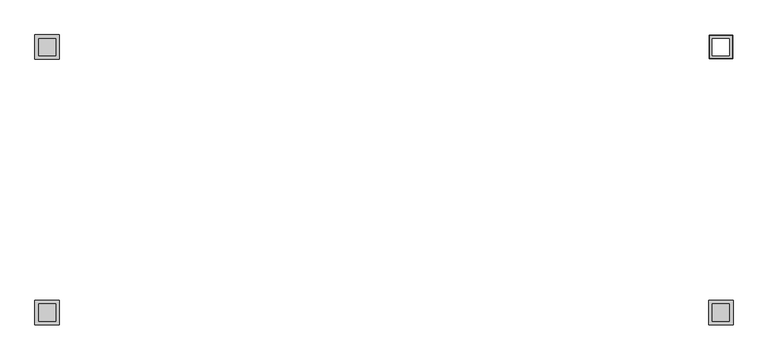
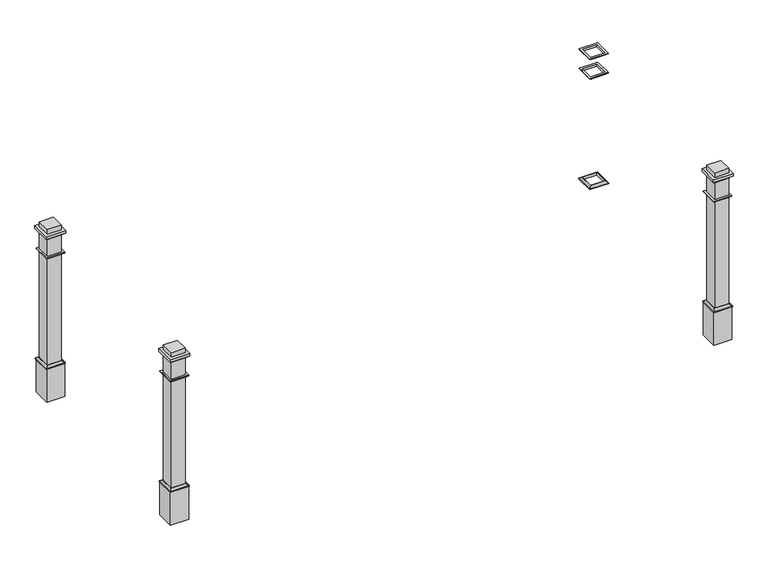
"""IFC4 building model written with IfcOpenShell, lengths in millimetres: railing geometry, Deco Type."""

from ifc_helpers import new_model, si_unit, frame, origin, place, context, project, spatial, polyline, ellipse_curve, outline, extrude, faceted_brep, source, transform, mapped, element, save
from ifc_brep_helpers import plane_surface, revolved_surface, advanced_brep


def railing_978d7468(model_context):
    return source(origin(), model_context, "Body", "SolidModel", [
        advanced_brep(
        [(-6672.1906648, 13388.0931951, 6197.6), (-6551.5406648, 13388.0931951, 6197.6), (-6551.5406648, 13388.0931951, 6219.825), (-6672.1906648, 13388.0931951, 6219.825), (-6694.4156648, 13410.3181951, 6203.95), (-6529.3156648, 13410.3181951, 6203.95), (-6529.3156648, 13410.3181951, 6197.6), (-6694.4156648, 13410.3181951, 6197.6), (-6678.5406648, 13394.4431951, 6219.825), (-6545.1906648, 13394.4431951, 6219.825), (-6551.5406648, 13267.4431951, 6197.6), (-6551.5406648, 13267.4431951, 6219.825), (-6529.3156648, 13245.2181951, 6203.95), (-6529.3156648, 13245.2181951, 6197.6), (-6545.1906648, 13261.0931951, 6219.825), (-6672.1906648, 13267.4431951, 6197.6), (-6672.1906648, 13267.4431951, 6219.825), (-6694.4156648, 13245.2181951, 6203.95), (-6694.4156648, 13245.2181951, 6197.6), (-6678.5406648, 13261.0931951, 6219.825)],
        [
            (0, 1),
            (1, 2),
            (2, 3),
            (3, 0),
            (4, 5),
            (5, 6),
            (6, 7),
            (7, 4),
            (8, 9),
            (9, 5, ellipse_curve(frame((-6529.3156648, 13410.3181951, 6219.825), z_axis=(0.7071067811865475, -0.7071067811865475, 0.0), x_axis=(0.7071067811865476, 0.7071067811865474, 0.0)), 22.4506403, 15.875)),
            (4, 8, ellipse_curve(frame((-6694.4156648, 13410.3181951, 6219.825), z_axis=(-0.7071067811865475, -0.7071067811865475, 0.0), x_axis=(0.7071067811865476, -0.7071067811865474, 0.0)), 22.4506403, 15.875)),
            (1, 10),
            (10, 11),
            (11, 2),
            (5, 12),
            (12, 13),
            (13, 6),
            (9, 14),
            (14, 12, ellipse_curve(frame((-6529.3156648, 13245.2181951, 6219.825), z_axis=(-0.7071067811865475, -0.7071067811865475, 0.0), x_axis=(0.7071067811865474, -0.7071067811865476, 0.0)), 22.4506403, 15.875)),
            (10, 15),
            (15, 16),
            (16, 11),
            (12, 17),
            (17, 18),
            (18, 13),
            (14, 19),
            (19, 17, ellipse_curve(frame((-6694.4156648, 13245.2181951, 6219.825), z_axis=(-0.7071067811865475, 0.7071067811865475, 0.0), x_axis=(-0.7071067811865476, -0.7071067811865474, 0.0)), 22.4506403, 15.875)),
            (15, 0),
            (3, 16),
            (18, 7),
            (17, 4),
            (19, 8),
        ],
        [
            plane_surface(frame((-6672.1906648, 13388.0931951, 6219.825), z_axis=(0.0, -1.0, 0.0), x_axis=(1.0, 0.0, 0.0))),
            plane_surface(frame((-6694.4156648, 13410.3181951, 6197.6), z_axis=(0.0, 1.0, 0.0), x_axis=(1.0, 0.0, 0.0))),
            revolved_surface(polyline([(-6513.44066480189, 13394.4431951, 6219.825), (-6710.29066479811, 13394.4431951, 6219.825)]), (-6672.1906648, 13410.3181951, 6219.825), (1.0, 0.0, 0.0)),
            plane_surface(frame((-6551.5406648, 13388.0931951, 6219.825), z_axis=(-1.0, 0.0, 0.0), x_axis=(0.0, -1.0, 0.0))),
            plane_surface(frame((-6529.3156648, 13410.3181951, 6197.6), z_axis=(1.0, 0.0, 0.0), x_axis=(0.0, -1.0, 0.0))),
            revolved_surface(polyline([(-6545.1906648, 13229.34319510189, 6219.825), (-6545.1906648, 13426.19319509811, 6219.825)]), (-6529.3156648, 13388.0931951, 6219.825), (0.0, -1.0, 0.0)),
            plane_surface(frame((-6551.5406648, 13267.4431951, 6219.825), z_axis=(0.0, 1.0, 0.0), x_axis=(-1.0, 0.0, 0.0))),
            plane_surface(frame((-6529.3156648, 13245.2181951, 6197.6), z_axis=(0.0, -1.0, 0.0), x_axis=(-1.0, 0.0, 0.0))),
            revolved_surface(polyline([(-6710.29066479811, 13261.0931951, 6219.825), (-6513.44066480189, 13261.0931951, 6219.825)]), (-6551.5406648, 13245.2181951, 6219.825), (-1.0, 0.0, 0.0)),
            plane_surface(frame((-6672.1906648, 13267.4431951, 6219.825), z_axis=(1.0, 0.0, 0.0), x_axis=(0.0, 1.0, 0.0))),
            plane_surface(frame((-6672.1906648, 13267.4431951, 6197.6), z_axis=(0.0, 0.0, -1.0), x_axis=(0.0, 1.0, 0.0))),
            plane_surface(frame((-6694.4156648, 13245.2181951, 6197.6), z_axis=(-1.0, 0.0, 0.0), x_axis=(0.0, 1.0, 0.0))),
            revolved_surface(polyline([(-6678.5406648, 13426.19319509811, 6219.825), (-6678.5406648, 13229.34319510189, 6219.825)]), (-6694.4156648, 13267.4431951, 6219.825), (0.0, 1.0, 0.0)),
            plane_surface(frame((-6678.5406648, 13261.0931951, 6219.825), z_axis=(0.0, 0.0, 1.0), x_axis=(0.0, 1.0, 0.0))),
        ],
        [
            (0, [[1, 2, 3, 4]]),
            (1, [[5, 6, 7, 8]]),
            (2, [[9, 10, -5, 11]]),
            (3, [[12, 13, 14, -2]]),
            (4, [[15, 16, 17, -6]]),
            (5, [[18, 19, -15, -10]]),
            (6, [[20, 21, 22, -13]]),
            (7, [[23, 24, 25, -16]]),
            (8, [[26, 27, -23, -19]]),
            (9, [[28, -4, 29, -21]]),
            (10, [[-7, -17, -25, 30], [-1, -28, -20, -12]]),
            (11, [[31, -8, -30, -24]]),
            (12, [[32, -11, -31, -27]]),
            (13, [[-9, -32, -26, -18], [-3, -14, -22, -29]]),
        ],
    ),
        advanced_brep(
        [(-6672.1906648, 13388.0931951, 7204.075), (-6551.5406648, 13388.0931951, 7204.075), (-6551.5406648, 13388.0931951, 7223.125), (-6672.1906648, 13388.0931951, 7223.125), (-6691.2406648, 13407.1431951, 7216.775), (-6532.4906648, 13407.1431951, 7216.775), (-6545.1906648, 13394.4431951, 7204.075), (-6678.5406648, 13394.4431951, 7204.075), (-6691.2406648, 13407.1431951, 7223.125), (-6532.4906648, 13407.1431951, 7223.125), (-6551.5406648, 13267.4431951, 7204.075), (-6551.5406648, 13267.4431951, 7223.125), (-6532.4906648, 13248.3931951, 7216.775), (-6545.1906648, 13261.0931951, 7204.075), (-6532.4906648, 13248.3931951, 7223.125), (-6672.1906648, 13267.4431951, 7204.075), (-6672.1906648, 13267.4431951, 7223.125), (-6691.2406648, 13248.3931951, 7216.775), (-6678.5406648, 13261.0931951, 7204.075), (-6691.2406648, 13248.3931951, 7223.125)],
        [
            (0, 1),
            (1, 2),
            (2, 3),
            (3, 0),
            (4, 5),
            (5, 6, ellipse_curve(frame((-6532.4906648, 13407.1431951, 7204.075), z_axis=(0.7071067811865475, -0.7071067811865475, 0.0), x_axis=(0.7071067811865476, 0.7071067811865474, 0.0)), 17.9605122, 12.7)),
            (6, 7),
            (7, 4, ellipse_curve(frame((-6691.2406648, 13407.1431951, 7204.075), z_axis=(-0.7071067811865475, -0.7071067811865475, 0.0), x_axis=(0.7071067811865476, -0.7071067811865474, 0.0)), 17.9605122, 12.7)),
            (8, 9),
            (9, 5),
            (4, 8),
            (1, 10),
            (10, 11),
            (11, 2),
            (5, 12),
            (12, 13, ellipse_curve(frame((-6532.4906648, 13248.3931951, 7204.075), z_axis=(-0.7071067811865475, -0.7071067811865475, 0.0), x_axis=(0.7071067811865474, -0.7071067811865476, 0.0)), 17.9605122, 12.7)),
            (13, 6),
            (9, 14),
            (14, 12),
            (10, 15),
            (15, 16),
            (16, 11),
            (12, 17),
            (17, 18, ellipse_curve(frame((-6691.2406648, 13248.3931951, 7204.075), z_axis=(-0.7071067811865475, 0.7071067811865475, 0.0), x_axis=(-0.7071067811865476, -0.7071067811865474, 0.0)), 17.9605122, 12.7)),
            (18, 13),
            (14, 19),
            (19, 17),
            (8, 19),
            (16, 3),
            (15, 0),
            (18, 7),
            (17, 4),
        ],
        [
            plane_surface(frame((-6672.1906648, 13388.0931951, 7223.125), z_axis=(0.0, -1.0, 0.0), x_axis=(1.0, 0.0, 0.0))),
            revolved_surface(polyline([(-6519.790664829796, 13394.443195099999, 7204.075), (-6703.9406647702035, 13394.443195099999, 7204.075)]), (-6672.1906648, 13407.1431951, 7204.075), (1.0, 0.0, 0.0)),
            plane_surface(frame((-6691.2406648, 13407.1431951, 7216.775), z_axis=(0.0, 1.0, 0.0), x_axis=(1.0, 0.0, 0.0))),
            plane_surface(frame((-6551.5406648, 13388.0931951, 7223.125), z_axis=(-1.0, 0.0, 0.0), x_axis=(0.0, -1.0, 0.0))),
            revolved_surface(polyline([(-6545.1906647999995, 13235.693195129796, 7204.075), (-6545.1906647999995, 13419.843195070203, 7204.075)]), (-6532.4906648, 13388.0931951, 7204.075), (0.0, -1.0, 0.0)),
            plane_surface(frame((-6532.4906648, 13407.1431951, 7216.775), z_axis=(1.0, 0.0, 0.0), x_axis=(0.0, -1.0, 0.0))),
            plane_surface(frame((-6551.5406648, 13267.4431951, 7223.125), z_axis=(0.0, 1.0, 0.0), x_axis=(-1.0, 0.0, 0.0))),
            revolved_surface(polyline([(-6703.9406647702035, 13261.0931951, 7204.075), (-6519.790664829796, 13261.0931951, 7204.075)]), (-6551.5406648, 13248.3931951, 7204.075), (-1.0, 0.0, 0.0)),
            plane_surface(frame((-6532.4906648, 13248.3931951, 7216.775), z_axis=(0.0, -1.0, 0.0), x_axis=(-1.0, 0.0, 0.0))),
            plane_surface(frame((-6691.2406648, 13248.3931951, 7223.125), z_axis=(0.0, 0.0, 1.0), x_axis=(0.0, 1.0, 0.0))),
            plane_surface(frame((-6672.1906648, 13267.4431951, 7223.125), z_axis=(1.0, 0.0, 0.0), x_axis=(0.0, 1.0, 0.0))),
            plane_surface(frame((-6672.1906648, 13267.4431951, 7204.075), z_axis=(0.0, 0.0, -1.0), x_axis=(0.0, 1.0, 0.0))),
            revolved_surface(polyline([(-6678.5406648, 13419.843195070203, 7204.075), (-6678.5406648, 13235.693195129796, 7204.075)]), (-6691.2406648, 13267.4431951, 7204.075), (0.0, 1.0, 0.0)),
            plane_surface(frame((-6691.2406648, 13248.3931951, 7216.775), z_axis=(-1.0, 0.0, 0.0), x_axis=(0.0, 1.0, 0.0))),
        ],
        [
            (0, [[1, 2, 3, 4]]),
            (1, [[5, 6, 7, 8]]),
            (2, [[9, 10, -5, 11]]),
            (3, [[12, 13, 14, -2]]),
            (4, [[15, 16, 17, -6]]),
            (5, [[18, 19, -15, -10]]),
            (6, [[20, 21, 22, -13]]),
            (7, [[23, 24, 25, -16]]),
            (8, [[26, 27, -23, -19]]),
            (9, [[-9, 28, -26, -18], [-3, -14, -22, 29]]),
            (10, [[30, -4, -29, -21]]),
            (11, [[-7, -17, -25, 31], [-1, -30, -20, -12]]),
            (12, [[32, -8, -31, -24]]),
            (13, [[-28, -11, -32, -27]]),
        ],
    ),
        faceted_brep([(-6672.1906648, 13388.0931951, 7381.875), (-6551.5406648, 13388.0931951, 7381.875), (-6551.5406648, 13388.0931951, 7400.925), (-6672.1906648, 13388.0931951, 7400.925), (-6678.5406648, 13394.4431951, 7394.575), (-6545.1906648, 13394.4431951, 7394.575), (-6545.1906648, 13394.4431951, 7381.875), (-6678.5406648, 13394.4431951, 7381.875), (-6691.2406648, 13407.1431951, 7400.925), (-6532.4906648, 13407.1431951, 7400.925), (-6532.4906648, 13407.1431951, 7394.575), (-6691.2406648, 13407.1431951, 7394.575), (-6551.5406648, 13267.4431951, 7381.875), (-6551.5406648, 13267.4431951, 7400.925), (-6545.1906648, 13261.0931951, 7394.575), (-6545.1906648, 13261.0931951, 7381.875), (-6532.4906648, 13248.3931951, 7400.925), (-6532.4906648, 13248.3931951, 7394.575), (-6672.1906648, 13267.4431951, 7381.875), (-6672.1906648, 13267.4431951, 7400.925), (-6678.5406648, 13261.0931951, 7394.575), (-6678.5406648, 13261.0931951, 7381.875), (-6691.2406648, 13248.3931951, 7400.925), (-6691.2406648, 13248.3931951, 7394.575)], [[[0, 1, 2, 3]], [[4, 5, 6, 7]], [[8, 9, 10, 11]], [[1, 12, 13, 2]], [[5, 14, 15, 6]], [[9, 16, 17, 10]], [[12, 18, 19, 13]], [[14, 20, 21, 15]], [[16, 22, 23, 17]], [[18, 0, 3, 19]], [[7, 6, 15, 21], [1, 0, 18, 12]], [[20, 4, 7, 21]], [[11, 10, 17, 23], [5, 4, 20, 14]], [[22, 8, 11, 23]], [[9, 8, 22, 16], [3, 2, 13, 19]]]),
        extrude(outline(polyline([(-11275.1469148, 13248.3931951), (-11433.8969148, 13248.3931951), (-11433.8969148, 13407.1431951), (-11275.1469148, 13407.1431951), (-11275.1469148, 13248.3931951)])), frame((0.0, 0.0, 5892.8), z_axis=(0.0, 0.0, 1.0), x_axis=(1.0, 0.0, 0.0)), (0.0, 0.0, 1.0), 304.8),
        extrude(outline(polyline([(-11294.1969148, 13267.4431951), (-11414.8469148, 13267.4431951), (-11414.8469148, 13388.0931951), (-11294.1969148, 13388.0931951), (-11294.1969148, 13267.4431951)])), frame((0.0, 0.0, 6197.6), z_axis=(0.0, 0.0, 1.0), x_axis=(1.0, 0.0, 0.0)), (0.0, 0.0, 1.0), 1270.0),
        extrude(outline(polyline([(-11440.2469148, 13242.0431951), (-11440.2469148, 13413.4931951), (-11268.7969148, 13413.4931951), (-11268.7969148, 13242.0431951), (-11440.2469148, 13242.0431951)]), holes=[polyline([(-11414.8469148, 13388.0931951), (-11414.8469148, 13267.4431951), (-11294.1969148, 13267.4431951), (-11294.1969148, 13388.0931951), (-11414.8469148, 13388.0931951)])]), frame((0.0, 0.0, 7400.925), z_axis=(0.0, 0.0, 1.0), x_axis=(1.0, 0.0, 0.0)), (0.0, 0.0, 1.0), 25.4),
        advanced_brep(
        [(-11414.8469148, 13267.4431951, 6197.6), (-11414.8469148, 13388.0931951, 6197.6), (-11414.8469148, 13388.0931951, 6219.825), (-11414.8469148, 13267.4431951, 6219.825), (-11437.0719148, 13245.2181951, 6203.95), (-11437.0719148, 13410.3181951, 6203.95), (-11437.0719148, 13410.3181951, 6197.6), (-11437.0719148, 13245.2181951, 6197.6), (-11421.1969148, 13261.0931951, 6219.825), (-11421.1969148, 13394.4431951, 6219.825), (-11294.1969148, 13388.0931951, 6197.6), (-11294.1969148, 13388.0931951, 6219.825), (-11271.9719148, 13410.3181951, 6203.95), (-11271.9719148, 13410.3181951, 6197.6), (-11287.8469148, 13394.4431951, 6219.825), (-11294.1969148, 13267.4431951, 6197.6), (-11294.1969148, 13267.4431951, 6219.825), (-11271.9719148, 13245.2181951, 6203.95), (-11271.9719148, 13245.2181951, 6197.6), (-11287.8469148, 13261.0931951, 6219.825)],
        [
            (0, 1),
            (1, 2),
            (2, 3),
            (3, 0),
            (4, 5),
            (5, 6),
            (6, 7),
            (7, 4),
            (8, 9),
            (9, 5, ellipse_curve(frame((-11437.0719148, 13410.3181951, 6219.825), z_axis=(0.7071067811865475, 0.7071067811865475, 0.0), x_axis=(-0.7071067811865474, 0.7071067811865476, 0.0)), 22.4506403, 15.875)),
            (4, 8, ellipse_curve(frame((-11437.0719148, 13245.2181951, 6219.825), z_axis=(0.7071067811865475, -0.7071067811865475, 0.0), x_axis=(0.7071067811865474, 0.7071067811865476, 0.0)), 22.4506403, 15.875)),
            (1, 10),
            (10, 11),
            (11, 2),
            (5, 12),
            (12, 13),
            (13, 6),
            (9, 14),
            (14, 12, ellipse_curve(frame((-11271.9719148, 13410.3181951, 6219.825), z_axis=(0.7071067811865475, -0.7071067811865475, 0.0), x_axis=(0.7071067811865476, 0.7071067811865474, 0.0)), 22.4506403, 15.875)),
            (10, 15),
            (15, 16),
            (16, 11),
            (12, 17),
            (17, 18),
            (18, 13),
            (14, 19),
            (19, 17, ellipse_curve(frame((-11271.9719148, 13245.2181951, 6219.825), z_axis=(-0.7071067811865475, -0.7071067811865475, 0.0), x_axis=(0.7071067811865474, -0.7071067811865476, 0.0)), 22.4506403, 15.875)),
            (15, 0),
            (3, 16),
            (18, 7),
            (17, 4),
            (19, 8),
        ],
        [
            plane_surface(frame((-11414.8469148, 13267.4431951, 6219.825), z_axis=(1.0, 0.0, 0.0), x_axis=(0.0, 1.0, 0.0))),
            plane_surface(frame((-11437.0719148, 13245.2181951, 6197.6), z_axis=(-1.0, 0.0, 0.0), x_axis=(0.0, 1.0, 0.0))),
            revolved_surface(polyline([(-11421.1969148, 13426.19319509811, 6219.825), (-11421.1969148, 13229.34319510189, 6219.825)]), (-11437.0719148, 13267.4431951, 6219.825), (0.0, 1.0, 0.0)),
            plane_surface(frame((-11414.8469148, 13388.0931951, 6219.825), z_axis=(0.0, -1.0, 0.0), x_axis=(1.0, 0.0, 0.0))),
            plane_surface(frame((-11437.0719148, 13410.3181951, 6197.6), z_axis=(0.0, 1.0, 0.0), x_axis=(1.0, 0.0, 0.0))),
            revolved_surface(polyline([(-11256.09691480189, 13394.4431951, 6219.825), (-11452.94691479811, 13394.4431951, 6219.825)]), (-11414.8469148, 13410.3181951, 6219.825), (1.0, 0.0, 0.0)),
            plane_surface(frame((-11294.1969148, 13388.0931951, 6219.825), z_axis=(-1.0, 0.0, 0.0), x_axis=(0.0, -1.0, 0.0))),
            plane_surface(frame((-11271.9719148, 13410.3181951, 6197.6), z_axis=(1.0, 0.0, 0.0), x_axis=(0.0, -1.0, 0.0))),
            revolved_surface(polyline([(-11287.8469148, 13229.34319510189, 6219.825), (-11287.8469148, 13426.19319509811, 6219.825)]), (-11271.9719148, 13388.0931951, 6219.825), (0.0, -1.0, 0.0)),
            plane_surface(frame((-11294.1969148, 13267.4431951, 6219.825), z_axis=(0.0, 1.0, 0.0), x_axis=(-1.0, 0.0, 0.0))),
            plane_surface(frame((-11294.1969148, 13267.4431951, 6197.6), z_axis=(0.0, 0.0, -1.0), x_axis=(-1.0, 0.0, 0.0))),
            plane_surface(frame((-11271.9719148, 13245.2181951, 6197.6), z_axis=(0.0, -1.0, 0.0), x_axis=(-1.0, 0.0, 0.0))),
            revolved_surface(polyline([(-11452.94691479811, 13261.0931951, 6219.825), (-11256.09691480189, 13261.0931951, 6219.825)]), (-11294.1969148, 13245.2181951, 6219.825), (-1.0, 0.0, 0.0)),
            plane_surface(frame((-11287.8469148, 13261.0931951, 6219.825), z_axis=(0.0, 0.0, 1.0), x_axis=(-1.0, 0.0, 0.0))),
        ],
        [
            (0, [[1, 2, 3, 4]]),
            (1, [[5, 6, 7, 8]]),
            (2, [[9, 10, -5, 11]]),
            (3, [[12, 13, 14, -2]]),
            (4, [[15, 16, 17, -6]]),
            (5, [[18, 19, -15, -10]]),
            (6, [[20, 21, 22, -13]]),
            (7, [[23, 24, 25, -16]]),
            (8, [[26, 27, -23, -19]]),
            (9, [[28, -4, 29, -21]]),
            (10, [[-7, -17, -25, 30], [-1, -28, -20, -12]]),
            (11, [[31, -8, -30, -24]]),
            (12, [[32, -11, -31, -27]]),
            (13, [[-9, -32, -26, -18], [-3, -14, -22, -29]]),
        ],
    ),
        advanced_brep(
        [(-11414.8469148, 13267.4431951, 7204.075), (-11414.8469148, 13388.0931951, 7204.075), (-11414.8469148, 13388.0931951, 7223.125), (-11414.8469148, 13267.4431951, 7223.125), (-11433.8969148, 13248.3931951, 7216.775), (-11433.8969148, 13407.1431951, 7216.775), (-11421.1969148, 13394.4431951, 7204.075), (-11421.1969148, 13261.0931951, 7204.075), (-11433.8969148, 13248.3931951, 7223.125), (-11433.8969148, 13407.1431951, 7223.125), (-11294.1969148, 13388.0931951, 7204.075), (-11294.1969148, 13388.0931951, 7223.125), (-11275.1469148, 13407.1431951, 7216.775), (-11287.8469148, 13394.4431951, 7204.075), (-11275.1469148, 13407.1431951, 7223.125), (-11294.1969148, 13267.4431951, 7204.075), (-11294.1969148, 13267.4431951, 7223.125), (-11275.1469148, 13248.3931951, 7216.775), (-11287.8469148, 13261.0931951, 7204.075), (-11275.1469148, 13248.3931951, 7223.125)],
        [
            (0, 1),
            (1, 2),
            (2, 3),
            (3, 0),
            (4, 5),
            (5, 6, ellipse_curve(frame((-11433.8969148, 13407.1431951, 7204.075), z_axis=(0.7071067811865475, 0.7071067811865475, 0.0), x_axis=(-0.7071067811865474, 0.7071067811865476, 0.0)), 17.9605122, 12.7)),
            (6, 7),
            (7, 4, ellipse_curve(frame((-11433.8969148, 13248.3931951, 7204.075), z_axis=(0.7071067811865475, -0.7071067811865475, 0.0), x_axis=(0.7071067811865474, 0.7071067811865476, 0.0)), 17.9605122, 12.7)),
            (8, 9),
            (9, 5),
            (4, 8),
            (1, 10),
            (10, 11),
            (11, 2),
            (5, 12),
            (12, 13, ellipse_curve(frame((-11275.1469148, 13407.1431951, 7204.075), z_axis=(0.7071067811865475, -0.7071067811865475, 0.0), x_axis=(0.7071067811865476, 0.7071067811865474, 0.0)), 17.9605122, 12.7)),
            (13, 6),
            (9, 14),
            (14, 12),
            (10, 15),
            (15, 16),
            (16, 11),
            (12, 17),
            (17, 18, ellipse_curve(frame((-11275.1469148, 13248.3931951, 7204.075), z_axis=(-0.7071067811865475, -0.7071067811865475, 0.0), x_axis=(0.7071067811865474, -0.7071067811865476, 0.0)), 17.9605122, 12.7)),
            (18, 13),
            (14, 19),
            (19, 17),
            (8, 19),
            (16, 3),
            (15, 0),
            (18, 7),
            (17, 4),
        ],
        [
            plane_surface(frame((-11414.8469148, 13267.4431951, 7223.125), z_axis=(1.0, 0.0, 0.0), x_axis=(0.0, 1.0, 0.0))),
            revolved_surface(polyline([(-11421.196914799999, 13419.843195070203, 7204.075), (-11421.196914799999, 13235.693195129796, 7204.075)]), (-11433.8969148, 13267.4431951, 7204.075), (0.0, 1.0, 0.0)),
            plane_surface(frame((-11433.8969148, 13248.3931951, 7216.775), z_axis=(-1.0, 0.0, 0.0), x_axis=(0.0, 1.0, 0.0))),
            plane_surface(frame((-11414.8469148, 13388.0931951, 7223.125), z_axis=(0.0, -1.0, 0.0), x_axis=(1.0, 0.0, 0.0))),
            revolved_surface(polyline([(-11262.446914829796, 13394.443195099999, 7204.075), (-11446.596914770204, 13394.443195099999, 7204.075)]), (-11414.8469148, 13407.1431951, 7204.075), (1.0, 0.0, 0.0)),
            plane_surface(frame((-11433.8969148, 13407.1431951, 7216.775), z_axis=(0.0, 1.0, 0.0), x_axis=(1.0, 0.0, 0.0))),
            plane_surface(frame((-11294.1969148, 13388.0931951, 7223.125), z_axis=(-1.0, 0.0, 0.0), x_axis=(0.0, -1.0, 0.0))),
            revolved_surface(polyline([(-11287.8469148, 13235.693195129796, 7204.075), (-11287.8469148, 13419.843195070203, 7204.075)]), (-11275.1469148, 13388.0931951, 7204.075), (0.0, -1.0, 0.0)),
            plane_surface(frame((-11275.1469148, 13407.1431951, 7216.775), z_axis=(1.0, 0.0, 0.0), x_axis=(0.0, -1.0, 0.0))),
            plane_surface(frame((-11275.1469148, 13248.3931951, 7223.125), z_axis=(0.0, 0.0, 1.0), x_axis=(-1.0, 0.0, 0.0))),
            plane_surface(frame((-11294.1969148, 13267.4431951, 7223.125), z_axis=(0.0, 1.0, 0.0), x_axis=(-1.0, 0.0, 0.0))),
            plane_surface(frame((-11294.1969148, 13267.4431951, 7204.075), z_axis=(0.0, 0.0, -1.0), x_axis=(-1.0, 0.0, 0.0))),
            revolved_surface(polyline([(-11446.596914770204, 13261.0931951, 7204.075), (-11262.446914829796, 13261.0931951, 7204.075)]), (-11294.1969148, 13248.3931951, 7204.075), (-1.0, 0.0, 0.0)),
            plane_surface(frame((-11275.1469148, 13248.3931951, 7216.775), z_axis=(0.0, -1.0, 0.0), x_axis=(-1.0, 0.0, 0.0))),
        ],
        [
            (0, [[1, 2, 3, 4]]),
            (1, [[5, 6, 7, 8]]),
            (2, [[9, 10, -5, 11]]),
            (3, [[12, 13, 14, -2]]),
            (4, [[15, 16, 17, -6]]),
            (5, [[18, 19, -15, -10]]),
            (6, [[20, 21, 22, -13]]),
            (7, [[23, 24, 25, -16]]),
            (8, [[26, 27, -23, -19]]),
            (9, [[-9, 28, -26, -18], [-3, -14, -22, 29]]),
            (10, [[30, -4, -29, -21]]),
            (11, [[-7, -17, -25, 31], [-1, -30, -20, -12]]),
            (12, [[32, -8, -31, -24]]),
            (13, [[-28, -11, -32, -27]]),
        ],
    ),
        faceted_brep([(-11414.8469148, 13267.4431951, 7381.875), (-11414.8469148, 13388.0931951, 7381.875), (-11414.8469148, 13388.0931951, 7400.925), (-11414.8469148, 13267.4431951, 7400.925), (-11421.1969148, 13261.0931951, 7394.575), (-11421.1969148, 13394.4431951, 7394.575), (-11421.1969148, 13394.4431951, 7381.875), (-11421.1969148, 13261.0931951, 7381.875), (-11433.8969148, 13248.3931951, 7400.925), (-11433.8969148, 13407.1431951, 7400.925), (-11433.8969148, 13407.1431951, 7394.575), (-11433.8969148, 13248.3931951, 7394.575), (-11294.1969148, 13388.0931951, 7381.875), (-11294.1969148, 13388.0931951, 7400.925), (-11287.8469148, 13394.4431951, 7394.575), (-11287.8469148, 13394.4431951, 7381.875), (-11275.1469148, 13407.1431951, 7400.925), (-11275.1469148, 13407.1431951, 7394.575), (-11294.1969148, 13267.4431951, 7381.875), (-11294.1969148, 13267.4431951, 7400.925), (-11287.8469148, 13261.0931951, 7394.575), (-11287.8469148, 13261.0931951, 7381.875), (-11275.1469148, 13248.3931951, 7400.925), (-11275.1469148, 13248.3931951, 7394.575)], [[[0, 1, 2, 3]], [[4, 5, 6, 7]], [[8, 9, 10, 11]], [[1, 12, 13, 2]], [[5, 14, 15, 6]], [[9, 16, 17, 10]], [[12, 18, 19, 13]], [[14, 20, 21, 15]], [[16, 22, 23, 17]], [[18, 0, 3, 19]], [[7, 6, 15, 21], [1, 0, 18, 12]], [[20, 4, 7, 21]], [[11, 10, 17, 23], [5, 4, 20, 14]], [[22, 8, 11, 23]], [[9, 8, 22, 16], [3, 2, 13, 19]]]),
        extrude(outline(polyline([(-6691.2406648, 11535.0838201), (-6532.4906648, 11535.0838201), (-6532.4906648, 11376.3338201), (-6691.2406648, 11376.3338201), (-6691.2406648, 11535.0838201)])), frame((0.0, 0.0, 5892.8), z_axis=(0.0, 0.0, 1.0), x_axis=(1.0, 0.0, 0.0)), (0.0, 0.0, 1.0), 304.8),
        extrude(outline(polyline([(-6672.1906648, 11516.0338201), (-6551.5406648, 11516.0338201), (-6551.5406648, 11395.3838201), (-6672.1906648, 11395.3838201), (-6672.1906648, 11516.0338201)])), frame((0.0, 0.0, 6197.6), z_axis=(0.0, 0.0, 1.0), x_axis=(1.0, 0.0, 0.0)), (0.0, 0.0, 1.0), 1270.0),
        extrude(outline(polyline([(-6526.1406648, 11541.4338201), (-6526.1406648, 11369.9838201), (-6697.5906648, 11369.9838201), (-6697.5906648, 11541.4338201), (-6526.1406648, 11541.4338201)]), holes=[polyline([(-6551.5406648, 11395.3838201), (-6551.5406648, 11516.0338201), (-6672.1906648, 11516.0338201), (-6672.1906648, 11395.3838201), (-6551.5406648, 11395.3838201)])]), frame((0.0, 0.0, 7400.925), z_axis=(0.0, 0.0, 1.0), x_axis=(1.0, 0.0, 0.0)), (0.0, 0.0, 1.0), 25.4),
        advanced_brep(
        [(-6551.5406648, 11516.0338201, 6197.6), (-6551.5406648, 11395.3838201, 6197.6), (-6551.5406648, 11395.3838201, 6219.825), (-6551.5406648, 11516.0338201, 6219.825), (-6529.3156648, 11538.2588201, 6203.95), (-6529.3156648, 11373.1588201, 6203.95), (-6529.3156648, 11373.1588201, 6197.6), (-6529.3156648, 11538.2588201, 6197.6), (-6545.1906648, 11522.3838201, 6219.825), (-6545.1906648, 11389.0338201, 6219.825), (-6672.1906648, 11395.3838201, 6197.6), (-6672.1906648, 11395.3838201, 6219.825), (-6694.4156648, 11373.1588201, 6203.95), (-6694.4156648, 11373.1588201, 6197.6), (-6678.5406648, 11389.0338201, 6219.825), (-6672.1906648, 11516.0338201, 6197.6), (-6672.1906648, 11516.0338201, 6219.825), (-6694.4156648, 11538.2588201, 6203.95), (-6694.4156648, 11538.2588201, 6197.6), (-6678.5406648, 11522.3838201, 6219.825)],
        [
            (0, 1),
            (1, 2),
            (2, 3),
            (3, 0),
            (4, 5),
            (5, 6),
            (6, 7),
            (7, 4),
            (8, 9),
            (9, 5, ellipse_curve(frame((-6529.3156648, 11373.1588201, 6219.825), z_axis=(-0.7071067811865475, -0.7071067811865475, 0.0), x_axis=(0.7071067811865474, -0.7071067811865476, 0.0)), 22.4506403, 15.875)),
            (4, 8, ellipse_curve(frame((-6529.3156648, 11538.2588201, 6219.825), z_axis=(-0.7071067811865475, 0.7071067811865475, 0.0), x_axis=(-0.7071067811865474, -0.7071067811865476, 0.0)), 22.4506403, 15.875)),
            (1, 10),
            (10, 11),
            (11, 2),
            (5, 12),
            (12, 13),
            (13, 6),
            (9, 14),
            (14, 12, ellipse_curve(frame((-6694.4156648, 11373.1588201, 6219.825), z_axis=(-0.7071067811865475, 0.7071067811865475, 0.0), x_axis=(-0.7071067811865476, -0.7071067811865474, 0.0)), 22.4506403, 15.875)),
            (10, 15),
            (15, 16),
            (16, 11),
            (12, 17),
            (17, 18),
            (18, 13),
            (14, 19),
            (19, 17, ellipse_curve(frame((-6694.4156648, 11538.2588201, 6219.825), z_axis=(0.7071067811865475, 0.7071067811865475, 0.0), x_axis=(-0.7071067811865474, 0.7071067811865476, 0.0)), 22.4506403, 15.875)),
            (15, 0),
            (3, 16),
            (18, 7),
            (17, 4),
            (19, 8),
        ],
        [
            plane_surface(frame((-6551.5406648, 11516.0338201, 6219.825), z_axis=(-1.0, 0.0, 0.0), x_axis=(0.0, -1.0, 0.0))),
            plane_surface(frame((-6529.3156648, 11538.2588201, 6197.6), z_axis=(1.0, 0.0, 0.0), x_axis=(0.0, -1.0, 0.0))),
            revolved_surface(polyline([(-6545.1906648, 11357.28382010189, 6219.825), (-6545.1906648, 11554.13382009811, 6219.825)]), (-6529.3156648, 11516.0338201, 6219.825), (0.0, -1.0, 0.0)),
            plane_surface(frame((-6551.5406648, 11395.3838201, 6219.825), z_axis=(0.0, 1.0, 0.0), x_axis=(-1.0, 0.0, 0.0))),
            plane_surface(frame((-6529.3156648, 11373.1588201, 6197.6), z_axis=(0.0, -1.0, 0.0), x_axis=(-1.0, 0.0, 0.0))),
            revolved_surface(polyline([(-6710.29066479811, 11389.0338201, 6219.825), (-6513.44066480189, 11389.0338201, 6219.825)]), (-6551.5406648, 11373.1588201, 6219.825), (-1.0, 0.0, 0.0)),
            plane_surface(frame((-6672.1906648, 11395.3838201, 6219.825), z_axis=(1.0, 0.0, 0.0), x_axis=(0.0, 1.0, 0.0))),
            plane_surface(frame((-6694.4156648, 11373.1588201, 6197.6), z_axis=(-1.0, 0.0, 0.0), x_axis=(0.0, 1.0, 0.0))),
            revolved_surface(polyline([(-6678.5406648, 11554.13382009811, 6219.825), (-6678.5406648, 11357.28382010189, 6219.825)]), (-6694.4156648, 11395.3838201, 6219.825), (0.0, 1.0, 0.0)),
            plane_surface(frame((-6672.1906648, 11516.0338201, 6219.825), z_axis=(0.0, -1.0, 0.0), x_axis=(1.0, 0.0, 0.0))),
            plane_surface(frame((-6672.1906648, 11516.0338201, 6197.6), z_axis=(0.0, 0.0, -1.0), x_axis=(1.0, 0.0, 0.0))),
            plane_surface(frame((-6694.4156648, 11538.2588201, 6197.6), z_axis=(0.0, 1.0, 0.0), x_axis=(1.0, 0.0, 0.0))),
            revolved_surface(polyline([(-6513.44066480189, 11522.3838201, 6219.825), (-6710.29066479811, 11522.3838201, 6219.825)]), (-6672.1906648, 11538.2588201, 6219.825), (1.0, 0.0, 0.0)),
            plane_surface(frame((-6678.5406648, 11522.3838201, 6219.825), z_axis=(0.0, 0.0, 1.0), x_axis=(1.0, 0.0, 0.0))),
        ],
        [
            (0, [[1, 2, 3, 4]]),
            (1, [[5, 6, 7, 8]]),
            (2, [[9, 10, -5, 11]]),
            (3, [[12, 13, 14, -2]]),
            (4, [[15, 16, 17, -6]]),
            (5, [[18, 19, -15, -10]]),
            (6, [[20, 21, 22, -13]]),
            (7, [[23, 24, 25, -16]]),
            (8, [[26, 27, -23, -19]]),
            (9, [[28, -4, 29, -21]]),
            (10, [[-7, -17, -25, 30], [-1, -28, -20, -12]]),
            (11, [[31, -8, -30, -24]]),
            (12, [[32, -11, -31, -27]]),
            (13, [[-9, -32, -26, -18], [-3, -14, -22, -29]]),
        ],
    ),
        advanced_brep(
        [(-6551.5406648, 11516.0338201, 7204.075), (-6551.5406648, 11395.3838201, 7204.075), (-6551.5406648, 11395.3838201, 7223.125), (-6551.5406648, 11516.0338201, 7223.125), (-6532.4906648, 11535.0838201, 7216.775), (-6532.4906648, 11376.3338201, 7216.775), (-6545.1906648, 11389.0338201, 7204.075), (-6545.1906648, 11522.3838201, 7204.075), (-6532.4906648, 11535.0838201, 7223.125), (-6532.4906648, 11376.3338201, 7223.125), (-6672.1906648, 11395.3838201, 7204.075), (-6672.1906648, 11395.3838201, 7223.125), (-6691.2406648, 11376.3338201, 7216.775), (-6678.5406648, 11389.0338201, 7204.075), (-6691.2406648, 11376.3338201, 7223.125), (-6672.1906648, 11516.0338201, 7204.075), (-6672.1906648, 11516.0338201, 7223.125), (-6691.2406648, 11535.0838201, 7216.775), (-6678.5406648, 11522.3838201, 7204.075), (-6691.2406648, 11535.0838201, 7223.125)],
        [
            (0, 1),
            (1, 2),
            (2, 3),
            (3, 0),
            (4, 5),
            (5, 6, ellipse_curve(frame((-6532.4906648, 11376.3338201, 7204.075), z_axis=(-0.7071067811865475, -0.7071067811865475, 0.0), x_axis=(0.7071067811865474, -0.7071067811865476, 0.0)), 17.9605122, 12.7)),
            (6, 7),
            (7, 4, ellipse_curve(frame((-6532.4906648, 11535.0838201, 7204.075), z_axis=(-0.7071067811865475, 0.7071067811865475, 0.0), x_axis=(-0.7071067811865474, -0.7071067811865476, 0.0)), 17.9605122, 12.7)),
            (8, 9),
            (9, 5),
            (4, 8),
            (1, 10),
            (10, 11),
            (11, 2),
            (5, 12),
            (12, 13, ellipse_curve(frame((-6691.2406648, 11376.3338201, 7204.075), z_axis=(-0.7071067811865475, 0.7071067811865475, 0.0), x_axis=(-0.7071067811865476, -0.7071067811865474, 0.0)), 17.9605122, 12.7)),
            (13, 6),
            (9, 14),
            (14, 12),
            (10, 15),
            (15, 16),
            (16, 11),
            (12, 17),
            (17, 18, ellipse_curve(frame((-6691.2406648, 11535.0838201, 7204.075), z_axis=(0.7071067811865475, 0.7071067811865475, 0.0), x_axis=(-0.7071067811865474, 0.7071067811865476, 0.0)), 17.9605122, 12.7)),
            (18, 13),
            (14, 19),
            (19, 17),
            (8, 19),
            (16, 3),
            (15, 0),
            (18, 7),
            (17, 4),
        ],
        [
            plane_surface(frame((-6551.5406648, 11516.0338201, 7223.125), z_axis=(-1.0, 0.0, 0.0), x_axis=(0.0, -1.0, 0.0))),
            revolved_surface(polyline([(-6545.1906647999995, 11363.633820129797, 7204.075), (-6545.1906647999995, 11547.783820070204, 7204.075)]), (-6532.4906648, 11516.0338201, 7204.075), (0.0, -1.0, 0.0)),
            plane_surface(frame((-6532.4906648, 11535.0838201, 7216.775), z_axis=(1.0, 0.0, 0.0), x_axis=(0.0, -1.0, 0.0))),
            plane_surface(frame((-6551.5406648, 11395.3838201, 7223.125), z_axis=(0.0, 1.0, 0.0), x_axis=(-1.0, 0.0, 0.0))),
            revolved_surface(polyline([(-6703.9406647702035, 11389.033820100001, 7204.075), (-6519.790664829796, 11389.033820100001, 7204.075)]), (-6551.5406648, 11376.3338201, 7204.075), (-1.0, 0.0, 0.0)),
            plane_surface(frame((-6532.4906648, 11376.3338201, 7216.775), z_axis=(0.0, -1.0, 0.0), x_axis=(-1.0, 0.0, 0.0))),
            plane_surface(frame((-6672.1906648, 11395.3838201, 7223.125), z_axis=(1.0, 0.0, 0.0), x_axis=(0.0, 1.0, 0.0))),
            revolved_surface(polyline([(-6678.5406648, 11547.783820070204, 7204.075), (-6678.5406648, 11363.633820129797, 7204.075)]), (-6691.2406648, 11395.3838201, 7204.075), (0.0, 1.0, 0.0)),
            plane_surface(frame((-6691.2406648, 11376.3338201, 7216.775), z_axis=(-1.0, 0.0, 0.0), x_axis=(0.0, 1.0, 0.0))),
            plane_surface(frame((-6691.2406648, 11535.0838201, 7223.125), z_axis=(0.0, 0.0, 1.0), x_axis=(1.0, 0.0, 0.0))),
            plane_surface(frame((-6672.1906648, 11516.0338201, 7223.125), z_axis=(0.0, -1.0, 0.0), x_axis=(1.0, 0.0, 0.0))),
            plane_surface(frame((-6672.1906648, 11516.0338201, 7204.075), z_axis=(0.0, 0.0, -1.0), x_axis=(1.0, 0.0, 0.0))),
            revolved_surface(polyline([(-6519.790664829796, 11522.3838201, 7204.075), (-6703.9406647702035, 11522.3838201, 7204.075)]), (-6672.1906648, 11535.0838201, 7204.075), (1.0, 0.0, 0.0)),
            plane_surface(frame((-6691.2406648, 11535.0838201, 7216.775), z_axis=(0.0, 1.0, 0.0), x_axis=(1.0, 0.0, 0.0))),
        ],
        [
            (0, [[1, 2, 3, 4]]),
            (1, [[5, 6, 7, 8]]),
            (2, [[9, 10, -5, 11]]),
            (3, [[12, 13, 14, -2]]),
            (4, [[15, 16, 17, -6]]),
            (5, [[18, 19, -15, -10]]),
            (6, [[20, 21, 22, -13]]),
            (7, [[23, 24, 25, -16]]),
            (8, [[26, 27, -23, -19]]),
            (9, [[-9, 28, -26, -18], [-3, -14, -22, 29]]),
            (10, [[30, -4, -29, -21]]),
            (11, [[-7, -17, -25, 31], [-1, -30, -20, -12]]),
            (12, [[32, -8, -31, -24]]),
            (13, [[-28, -11, -32, -27]]),
        ],
    ),
        faceted_brep([(-6551.5406648, 11516.0338201, 7381.875), (-6551.5406648, 11395.3838201, 7381.875), (-6551.5406648, 11395.3838201, 7400.925), (-6551.5406648, 11516.0338201, 7400.925), (-6545.1906648, 11522.3838201, 7394.575), (-6545.1906648, 11389.0338201, 7394.575), (-6545.1906648, 11389.0338201, 7381.875), (-6545.1906648, 11522.3838201, 7381.875), (-6532.4906648, 11535.0838201, 7400.925), (-6532.4906648, 11376.3338201, 7400.925), (-6532.4906648, 11376.3338201, 7394.575), (-6532.4906648, 11535.0838201, 7394.575), (-6672.1906648, 11395.3838201, 7381.875), (-6672.1906648, 11395.3838201, 7400.925), (-6678.5406648, 11389.0338201, 7394.575), (-6678.5406648, 11389.0338201, 7381.875), (-6691.2406648, 11376.3338201, 7400.925), (-6691.2406648, 11376.3338201, 7394.575), (-6672.1906648, 11516.0338201, 7381.875), (-6672.1906648, 11516.0338201, 7400.925), (-6678.5406648, 11522.3838201, 7394.575), (-6678.5406648, 11522.3838201, 7381.875), (-6691.2406648, 11535.0838201, 7400.925), (-6691.2406648, 11535.0838201, 7394.575)], [[[0, 1, 2, 3]], [[4, 5, 6, 7]], [[8, 9, 10, 11]], [[1, 12, 13, 2]], [[5, 14, 15, 6]], [[9, 16, 17, 10]], [[12, 18, 19, 13]], [[14, 20, 21, 15]], [[16, 22, 23, 17]], [[18, 0, 3, 19]], [[7, 6, 15, 21], [1, 0, 18, 12]], [[20, 4, 7, 21]], [[11, 10, 17, 23], [5, 4, 20, 14]], [[22, 8, 11, 23]], [[9, 8, 22, 16], [3, 2, 13, 19]]]),
        extrude(outline(polyline([(-11275.1469148, 11376.3338201), (-11433.8969148, 11376.3338201), (-11433.8969148, 11535.0838201), (-11275.1469148, 11535.0838201), (-11275.1469148, 11376.3338201)])), frame((0.0, 0.0, 5892.8), z_axis=(0.0, 0.0, 1.0), x_axis=(1.0, 0.0, 0.0)), (0.0, 0.0, 1.0), 304.8),
        extrude(outline(polyline([(-11294.1969148, 11395.3838201), (-11414.8469148, 11395.3838201), (-11414.8469148, 11516.0338201), (-11294.1969148, 11516.0338201), (-11294.1969148, 11395.3838201)])), frame((0.0, 0.0, 6197.6), z_axis=(0.0, 0.0, 1.0), x_axis=(1.0, 0.0, 0.0)), (0.0, 0.0, 1.0), 1270.0),
        extrude(outline(polyline([(-11440.2469148, 11369.9838201), (-11440.2469148, 11541.4338201), (-11268.7969148, 11541.4338201), (-11268.7969148, 11369.9838201), (-11440.2469148, 11369.9838201)]), holes=[polyline([(-11414.8469148, 11516.0338201), (-11414.8469148, 11395.3838201), (-11294.1969148, 11395.3838201), (-11294.1969148, 11516.0338201), (-11414.8469148, 11516.0338201)])]), frame((0.0, 0.0, 7400.925), z_axis=(0.0, 0.0, 1.0), x_axis=(1.0, 0.0, 0.0)), (0.0, 0.0, 1.0), 25.4),
        advanced_brep(
        [(-11414.8469148, 11395.3838201, 6197.6), (-11414.8469148, 11516.0338201, 6197.6), (-11414.8469148, 11516.0338201, 6219.825), (-11414.8469148, 11395.3838201, 6219.825), (-11437.0719148, 11373.1588201, 6203.95), (-11437.0719148, 11538.2588201, 6203.95), (-11437.0719148, 11538.2588201, 6197.6), (-11437.0719148, 11373.1588201, 6197.6), (-11421.1969148, 11389.0338201, 6219.825), (-11421.1969148, 11522.3838201, 6219.825), (-11294.1969148, 11516.0338201, 6197.6), (-11294.1969148, 11516.0338201, 6219.825), (-11271.9719148, 11538.2588201, 6203.95), (-11271.9719148, 11538.2588201, 6197.6), (-11287.8469148, 11522.3838201, 6219.825), (-11294.1969148, 11395.3838201, 6197.6), (-11294.1969148, 11395.3838201, 6219.825), (-11271.9719148, 11373.1588201, 6203.95), (-11271.9719148, 11373.1588201, 6197.6), (-11287.8469148, 11389.0338201, 6219.825)],
        [
            (0, 1),
            (1, 2),
            (2, 3),
            (3, 0),
            (4, 5),
            (5, 6),
            (6, 7),
            (7, 4),
            (8, 9),
            (9, 5, ellipse_curve(frame((-11437.0719148, 11538.2588201, 6219.825), z_axis=(0.7071067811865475, 0.7071067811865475, 0.0), x_axis=(-0.7071067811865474, 0.7071067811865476, 0.0)), 22.4506403, 15.875)),
            (4, 8, ellipse_curve(frame((-11437.0719148, 11373.1588201, 6219.825), z_axis=(0.7071067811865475, -0.7071067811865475, 0.0), x_axis=(0.7071067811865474, 0.7071067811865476, 0.0)), 22.4506403, 15.875)),
            (1, 10),
            (10, 11),
            (11, 2),
            (5, 12),
            (12, 13),
            (13, 6),
            (9, 14),
            (14, 12, ellipse_curve(frame((-11271.9719148, 11538.2588201, 6219.825), z_axis=(0.7071067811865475, -0.7071067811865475, 0.0), x_axis=(0.7071067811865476, 0.7071067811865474, 0.0)), 22.4506403, 15.875)),
            (10, 15),
            (15, 16),
            (16, 11),
            (12, 17),
            (17, 18),
            (18, 13),
            (14, 19),
            (19, 17, ellipse_curve(frame((-11271.9719148, 11373.1588201, 6219.825), z_axis=(-0.7071067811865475, -0.7071067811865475, 0.0), x_axis=(0.7071067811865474, -0.7071067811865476, 0.0)), 22.4506403, 15.875)),
            (15, 0),
            (3, 16),
            (18, 7),
            (17, 4),
            (19, 8),
        ],
        [
            plane_surface(frame((-11414.8469148, 11395.3838201, 6219.825), z_axis=(1.0, 0.0, 0.0), x_axis=(0.0, 1.0, 0.0))),
            plane_surface(frame((-11437.0719148, 11373.1588201, 6197.6), z_axis=(-1.0, 0.0, 0.0), x_axis=(0.0, 1.0, 0.0))),
            revolved_surface(polyline([(-11421.1969148, 11554.13382009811, 6219.825), (-11421.1969148, 11357.28382010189, 6219.825)]), (-11437.0719148, 11395.3838201, 6219.825), (0.0, 1.0, 0.0)),
            plane_surface(frame((-11414.8469148, 11516.0338201, 6219.825), z_axis=(0.0, -1.0, 0.0), x_axis=(1.0, 0.0, 0.0))),
            plane_surface(frame((-11437.0719148, 11538.2588201, 6197.6), z_axis=(0.0, 1.0, 0.0), x_axis=(1.0, 0.0, 0.0))),
            revolved_surface(polyline([(-11256.09691480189, 11522.3838201, 6219.825), (-11452.94691479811, 11522.3838201, 6219.825)]), (-11414.8469148, 11538.2588201, 6219.825), (1.0, 0.0, 0.0)),
            plane_surface(frame((-11294.1969148, 11516.0338201, 6219.825), z_axis=(-1.0, 0.0, 0.0), x_axis=(0.0, -1.0, 0.0))),
            plane_surface(frame((-11271.9719148, 11538.2588201, 6197.6), z_axis=(1.0, 0.0, 0.0), x_axis=(0.0, -1.0, 0.0))),
            revolved_surface(polyline([(-11287.8469148, 11357.28382010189, 6219.825), (-11287.8469148, 11554.13382009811, 6219.825)]), (-11271.9719148, 11516.0338201, 6219.825), (0.0, -1.0, 0.0)),
            plane_surface(frame((-11294.1969148, 11395.3838201, 6219.825), z_axis=(0.0, 1.0, 0.0), x_axis=(-1.0, 0.0, 0.0))),
            plane_surface(frame((-11294.1969148, 11395.3838201, 6197.6), z_axis=(0.0, 0.0, -1.0), x_axis=(-1.0, 0.0, 0.0))),
            plane_surface(frame((-11271.9719148, 11373.1588201, 6197.6), z_axis=(0.0, -1.0, 0.0), x_axis=(-1.0, 0.0, 0.0))),
            revolved_surface(polyline([(-11452.94691479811, 11389.0338201, 6219.825), (-11256.09691480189, 11389.0338201, 6219.825)]), (-11294.1969148, 11373.1588201, 6219.825), (-1.0, 0.0, 0.0)),
            plane_surface(frame((-11287.8469148, 11389.0338201, 6219.825), z_axis=(0.0, 0.0, 1.0), x_axis=(-1.0, 0.0, 0.0))),
        ],
        [
            (0, [[1, 2, 3, 4]]),
            (1, [[5, 6, 7, 8]]),
            (2, [[9, 10, -5, 11]]),
            (3, [[12, 13, 14, -2]]),
            (4, [[15, 16, 17, -6]]),
            (5, [[18, 19, -15, -10]]),
            (6, [[20, 21, 22, -13]]),
            (7, [[23, 24, 25, -16]]),
            (8, [[26, 27, -23, -19]]),
            (9, [[28, -4, 29, -21]]),
            (10, [[-7, -17, -25, 30], [-1, -28, -20, -12]]),
            (11, [[31, -8, -30, -24]]),
            (12, [[32, -11, -31, -27]]),
            (13, [[-9, -32, -26, -18], [-3, -14, -22, -29]]),
        ],
    ),
        advanced_brep(
        [(-11414.8469148, 11395.3838201, 7204.075), (-11414.8469148, 11516.0338201, 7204.075), (-11414.8469148, 11516.0338201, 7223.125), (-11414.8469148, 11395.3838201, 7223.125), (-11433.8969148, 11376.3338201, 7216.775), (-11433.8969148, 11535.0838201, 7216.775), (-11421.1969148, 11522.3838201, 7204.075), (-11421.1969148, 11389.0338201, 7204.075), (-11433.8969148, 11376.3338201, 7223.125), (-11433.8969148, 11535.0838201, 7223.125), (-11294.1969148, 11516.0338201, 7204.075), (-11294.1969148, 11516.0338201, 7223.125), (-11275.1469148, 11535.0838201, 7216.775), (-11287.8469148, 11522.3838201, 7204.075), (-11275.1469148, 11535.0838201, 7223.125), (-11294.1969148, 11395.3838201, 7204.075), (-11294.1969148, 11395.3838201, 7223.125), (-11275.1469148, 11376.3338201, 7216.775), (-11287.8469148, 11389.0338201, 7204.075), (-11275.1469148, 11376.3338201, 7223.125)],
        [
            (0, 1),
            (1, 2),
            (2, 3),
            (3, 0),
            (4, 5),
            (5, 6, ellipse_curve(frame((-11433.8969148, 11535.0838201, 7204.075), z_axis=(0.7071067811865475, 0.7071067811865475, 0.0), x_axis=(-0.7071067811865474, 0.7071067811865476, 0.0)), 17.9605122, 12.7)),
            (6, 7),
            (7, 4, ellipse_curve(frame((-11433.8969148, 11376.3338201, 7204.075), z_axis=(0.7071067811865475, -0.7071067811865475, 0.0), x_axis=(0.7071067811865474, 0.7071067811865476, 0.0)), 17.9605122, 12.7)),
            (8, 9),
            (9, 5),
            (4, 8),
            (1, 10),
            (10, 11),
            (11, 2),
            (5, 12),
            (12, 13, ellipse_curve(frame((-11275.1469148, 11535.0838201, 7204.075), z_axis=(0.7071067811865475, -0.7071067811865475, 0.0), x_axis=(0.7071067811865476, 0.7071067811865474, 0.0)), 17.9605122, 12.7)),
            (13, 6),
            (9, 14),
            (14, 12),
            (10, 15),
            (15, 16),
            (16, 11),
            (12, 17),
            (17, 18, ellipse_curve(frame((-11275.1469148, 11376.3338201, 7204.075), z_axis=(-0.7071067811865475, -0.7071067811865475, 0.0), x_axis=(0.7071067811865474, -0.7071067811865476, 0.0)), 17.9605122, 12.7)),
            (18, 13),
            (14, 19),
            (19, 17),
            (8, 19),
            (16, 3),
            (15, 0),
            (18, 7),
            (17, 4),
        ],
        [
            plane_surface(frame((-11414.8469148, 11395.3838201, 7223.125), z_axis=(1.0, 0.0, 0.0), x_axis=(0.0, 1.0, 0.0))),
            revolved_surface(polyline([(-11421.196914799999, 11547.783820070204, 7204.075), (-11421.196914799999, 11363.633820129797, 7204.075)]), (-11433.8969148, 11395.3838201, 7204.075), (0.0, 1.0, 0.0)),
            plane_surface(frame((-11433.8969148, 11376.3338201, 7216.775), z_axis=(-1.0, 0.0, 0.0), x_axis=(0.0, 1.0, 0.0))),
            plane_surface(frame((-11414.8469148, 11516.0338201, 7223.125), z_axis=(0.0, -1.0, 0.0), x_axis=(1.0, 0.0, 0.0))),
            revolved_surface(polyline([(-11262.446914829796, 11522.3838201, 7204.075), (-11446.596914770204, 11522.3838201, 7204.075)]), (-11414.8469148, 11535.0838201, 7204.075), (1.0, 0.0, 0.0)),
            plane_surface(frame((-11433.8969148, 11535.0838201, 7216.775), z_axis=(0.0, 1.0, 0.0), x_axis=(1.0, 0.0, 0.0))),
            plane_surface(frame((-11294.1969148, 11516.0338201, 7223.125), z_axis=(-1.0, 0.0, 0.0), x_axis=(0.0, -1.0, 0.0))),
            revolved_surface(polyline([(-11287.8469148, 11363.633820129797, 7204.075), (-11287.8469148, 11547.783820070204, 7204.075)]), (-11275.1469148, 11516.0338201, 7204.075), (0.0, -1.0, 0.0)),
            plane_surface(frame((-11275.1469148, 11535.0838201, 7216.775), z_axis=(1.0, 0.0, 0.0), x_axis=(0.0, -1.0, 0.0))),
            plane_surface(frame((-11275.1469148, 11376.3338201, 7223.125), z_axis=(0.0, 0.0, 1.0), x_axis=(-1.0, 0.0, 0.0))),
            plane_surface(frame((-11294.1969148, 11395.3838201, 7223.125), z_axis=(0.0, 1.0, 0.0), x_axis=(-1.0, 0.0, 0.0))),
            plane_surface(frame((-11294.1969148, 11395.3838201, 7204.075), z_axis=(0.0, 0.0, -1.0), x_axis=(-1.0, 0.0, 0.0))),
            revolved_surface(polyline([(-11446.596914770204, 11389.033820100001, 7204.075), (-11262.446914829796, 11389.033820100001, 7204.075)]), (-11294.1969148, 11376.3338201, 7204.075), (-1.0, 0.0, 0.0)),
            plane_surface(frame((-11275.1469148, 11376.3338201, 7216.775), z_axis=(0.0, -1.0, 0.0), x_axis=(-1.0, 0.0, 0.0))),
        ],
        [
            (0, [[1, 2, 3, 4]]),
            (1, [[5, 6, 7, 8]]),
            (2, [[9, 10, -5, 11]]),
            (3, [[12, 13, 14, -2]]),
            (4, [[15, 16, 17, -6]]),
            (5, [[18, 19, -15, -10]]),
            (6, [[20, 21, 22, -13]]),
            (7, [[23, 24, 25, -16]]),
            (8, [[26, 27, -23, -19]]),
            (9, [[-9, 28, -26, -18], [-3, -14, -22, 29]]),
            (10, [[30, -4, -29, -21]]),
            (11, [[-7, -17, -25, 31], [-1, -30, -20, -12]]),
            (12, [[32, -8, -31, -24]]),
            (13, [[-28, -11, -32, -27]]),
        ],
    ),
        faceted_brep([(-11414.8469148, 11395.3838201, 7381.875), (-11414.8469148, 11516.0338201, 7381.875), (-11414.8469148, 11516.0338201, 7400.925), (-11414.8469148, 11395.3838201, 7400.925), (-11421.1969148, 11389.0338201, 7394.575), (-11421.1969148, 11522.3838201, 7394.575), (-11421.1969148, 11522.3838201, 7381.875), (-11421.1969148, 11389.0338201, 7381.875), (-11433.8969148, 11376.3338201, 7400.925), (-11433.8969148, 11535.0838201, 7400.925), (-11433.8969148, 11535.0838201, 7394.575), (-11433.8969148, 11376.3338201, 7394.575), (-11294.1969148, 11516.0338201, 7381.875), (-11294.1969148, 11516.0338201, 7400.925), (-11287.8469148, 11522.3838201, 7394.575), (-11287.8469148, 11522.3838201, 7381.875), (-11275.1469148, 11535.0838201, 7400.925), (-11275.1469148, 11535.0838201, 7394.575), (-11294.1969148, 11395.3838201, 7381.875), (-11294.1969148, 11395.3838201, 7400.925), (-11287.8469148, 11389.0338201, 7394.575), (-11287.8469148, 11389.0338201, 7381.875), (-11275.1469148, 11376.3338201, 7400.925), (-11275.1469148, 11376.3338201, 7394.575)], [[[0, 1, 2, 3]], [[4, 5, 6, 7]], [[8, 9, 10, 11]], [[1, 12, 13, 2]], [[5, 14, 15, 6]], [[9, 16, 17, 10]], [[12, 18, 19, 13]], [[14, 20, 21, 15]], [[16, 22, 23, 17]], [[18, 0, 3, 19]], [[7, 6, 15, 21], [1, 0, 18, 12]], [[20, 4, 7, 21]], [[11, 10, 17, 23], [5, 4, 20, 14]], [[22, 8, 11, 23]], [[9, 8, 22, 16], [3, 2, 13, 19]]]),
    ])


if __name__ == "__main__":
    model = new_model("IFC4")
    model_context = context("Model", 3, world=origin())
    ifc_project = project(units=[si_unit("LENGTHUNIT", "METRE", prefix="MILLI")], contexts=[model_context])
    site = spatial("IfcSite", under=ifc_project)
    building = spatial("IfcBuilding", under=site)
    placement = place(None, origin())
    railing_shape = railing_978d7468(model_context)
    element("IfcRailing", 1, ObjectType="Deco Type", at=placement, inside=building, context=model_context, shape_type="MappedRepresentation", body=[
        mapped(railing_shape, transform((0.0, 0.0, 0.0), x_axis=(1.0, 0.0, 0.0), y_axis=(0.0, 1.0, 0.0), z_axis=(0.0, 0.0, 1.0))),
    ])
    save(model, "model.ifc")
